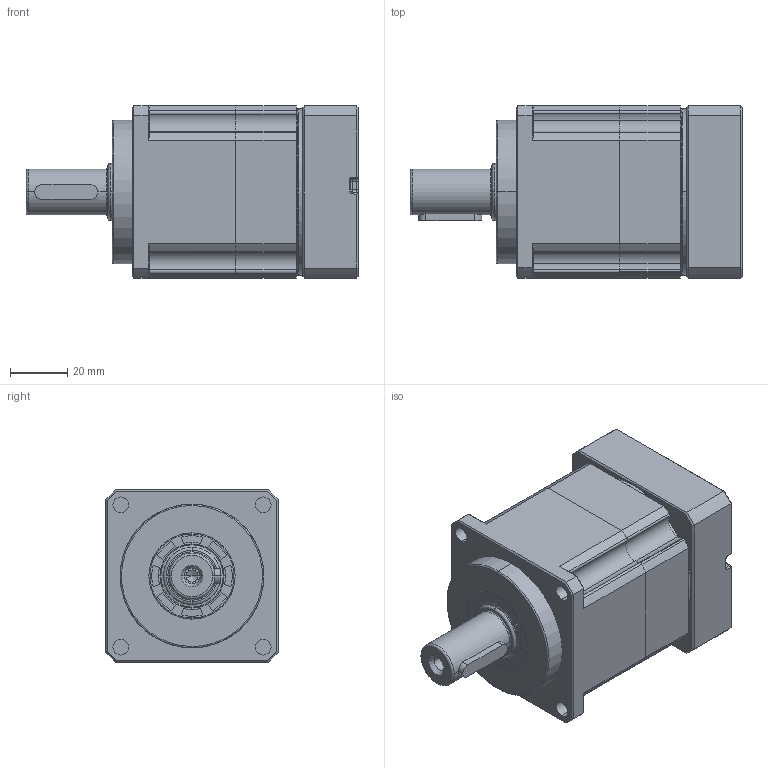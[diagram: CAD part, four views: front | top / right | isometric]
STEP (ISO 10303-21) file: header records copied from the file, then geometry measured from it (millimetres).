
FILE_DESCRIPTION (( 'STEP AP214' ), '1' );
FILE_NAME ('FAB060D-L1-14-50-70-M5-34.STEP', '2021-04-24T10:08:30', ( '微软用户' ), ( '微软中国' ), 'SwSTEP 2.0', 'SolidWorks 2014', '' );
FILE_SCHEMA (( 'AUTOMOTIVE_DESIGN' ));
Length unit declared in the file: millimetre
Products named in the file (24): 坶踡遠18-37-12(1); PAB60D齿圈; 1-输入端壳体PAB060D; FAB060D-L1-14-50-70-M5-34; hexagon socket head cap screws gb_GB_FASTENER_SCREWS_HSHCS M4X16-N; hex socket set screws with cone point gb_GB_FASTENER_SCREWS_HSCP M10X10-N; A倰す瑩5-22; 蚐猾20304; 11-输入法兰PAB60D-50-70-M5; PAB060D怀堤俴陎殤1; 输入太阳齿轮060D-14
Assembly tree (13 placements, depth 2):
  坶踡遠18-37-12(1)
  PAB60D齿圈
  1-输入端壳体PAB060D
  FAB060D-L1-14-50-70-M5-34
    1-输入端壳体PAB060D
    PAB60D齿圈
    坶踡遠18-37-12(1)
    输入太阳齿轮060D-14
    PAB060D怀堤俴陎殤1
    11-输入法兰PAB60D-50-70-M5
    蚐猾20304
    A倰す瑩5-22
    hex socket set screws with cone point gb_GB_FASTENER_SCREWS_HSCP M10X10-N
    hexagon socket head cap screws gb_GB_FASTENER_SCREWS_HSHCS M4X16-N  x4
  hexagon socket head cap screws gb_GB_FASTENER_SCREWS_HSHCS M4X16-N
Bounding box: 115.5 x 60 x 60 mm (x, y, z)
Volume: 247466.3 mm3; surface area: 65572.4 mm2
Topology: 14 solids, 14 shells, 941 faces, 2276 edges, 1360 vertices
Faces by surface type: cylinder 293, plane 271, cone 192, bspline 177, torus 8
Entity records: 43814 total; most frequent: CARTESIAN_POINT 14250, ORIENTED_EDGE 4112, DIRECTION 4037, EDGE_CURVE 2056, AXIS2_PLACEMENT_3D 1610, VERTEX_POINT 1261, EDGE_LOOP 949, CIRCLE 898
